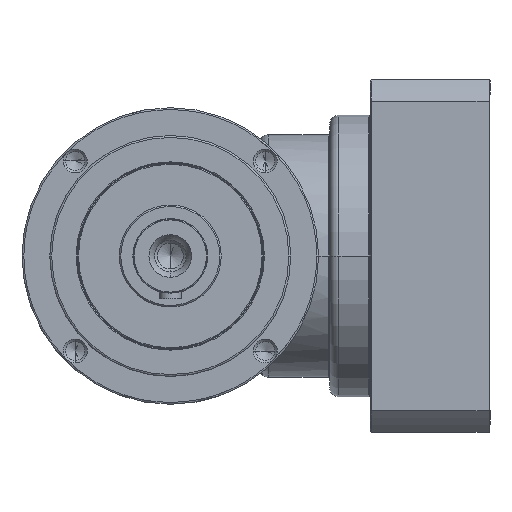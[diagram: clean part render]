
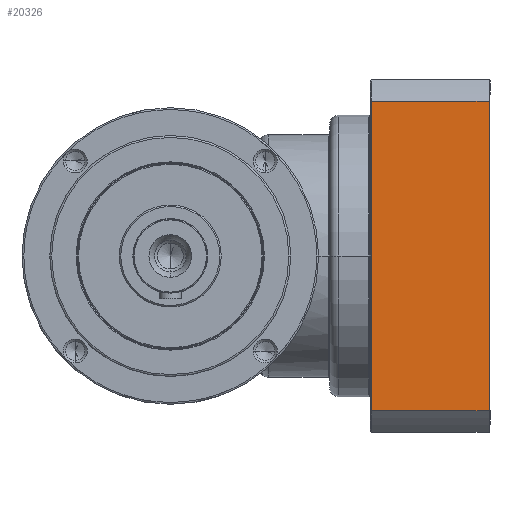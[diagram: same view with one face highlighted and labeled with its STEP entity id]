
A CAD part, left-side view. The second image highlights one B-rep face of the part: STEP entity #20326.
In plain terms, the highlighted planar face has unit normal (-1, 0, 0) as drawn and (0, -1, 0) by its records, which use the part's own axes.
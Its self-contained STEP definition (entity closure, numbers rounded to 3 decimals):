
#19178=DIRECTION('',(1.,0.,0.));
#19179=VECTOR('',#19178,167.06);
#19180=CARTESIAN_POINT('',(-83.53,-95.,
3.));
#19181=LINE('',#19180,#19179);
#19182=DIRECTION('',(0.,0.,1.));
#19183=VECTOR('',#19182,63.5);
#19184=CARTESIAN_POINT('',(-83.53,-95.,
3.));
#19185=LINE('',#19184,#19183);
#19186=DIRECTION('',(1.,0.,0.));
#19187=VECTOR('',#19186,167.06);
#19188=CARTESIAN_POINT('',(-83.53,-95.,
66.5));
#19189=LINE('',#19188,#19187);
#19190=DIRECTION('',(0.,0.,1.));
#19191=VECTOR('',#19190,63.5);
#19192=CARTESIAN_POINT('',(83.53,-95.,
3.));
#19193=LINE('',#19192,#19191);
#19891=CARTESIAN_POINT('',(-83.53,-95.,
66.5));
#19892=CARTESIAN_POINT('',(83.53,-95.,
66.5));
#19893=VERTEX_POINT('',#19891);
#19894=VERTEX_POINT('',#19892);
#19928=CARTESIAN_POINT('',(-83.53,-95.,3.));
#19930=VERTEX_POINT('',#19928);
#19933=CARTESIAN_POINT('',(83.53,-95.,
3.));
#19934=VERTEX_POINT('',#19933);
#20312=CARTESIAN_POINT('',(-95.,-95.,0.));
#20313=DIRECTION('',(0.,-1.,0.));
#20314=DIRECTION('',(1.,0.,0.));
#20315=AXIS2_PLACEMENT_3D('',#20312,#20313,#20314);
#20316=PLANE('',#20315);
#20317=ORIENTED_EDGE('',*,*,#20306,.F.);
#20319=ORIENTED_EDGE('',*,*,#20318,.T.);
#20321=ORIENTED_EDGE('',*,*,#20320,.T.);
#20323=ORIENTED_EDGE('',*,*,#20322,.F.);
#20324=EDGE_LOOP('',(#20317,#20319,#20321,#20323));
#20325=FACE_OUTER_BOUND('',#20324,.F.);
#20326=ADVANCED_FACE('',(#20325),#20316,.T.);
#20306=EDGE_CURVE('',#19930,#19934,#19181,.T.);
#20318=EDGE_CURVE('',#19930,#19893,#19185,.T.);
#20320=EDGE_CURVE('',#19893,#19894,#19189,.T.);
#20322=EDGE_CURVE('',#19934,#19894,#19193,.T.);
